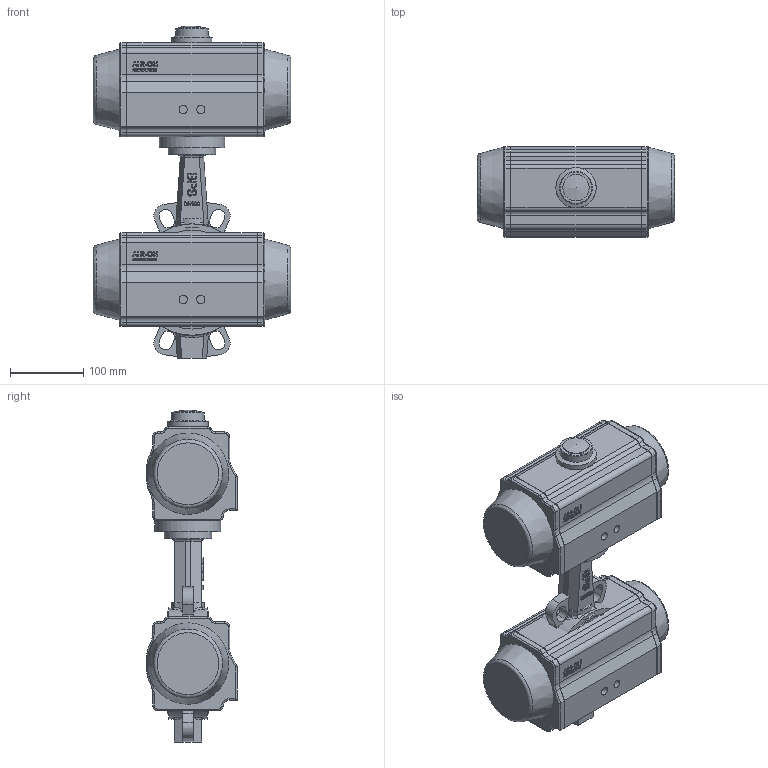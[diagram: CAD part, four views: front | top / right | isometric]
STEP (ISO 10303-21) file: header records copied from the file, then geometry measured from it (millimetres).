
FILE_DESCRIPTION( ( 'Unknown' ), '1' );
FILE_NAME( 'R:/ECCUA/ROOTSI BPS 3D vidinad/Poordklapid Wafer type/Butterfly valve(wafer) with pneumatic actuator BPS/STEP formaat/BPS 2303100PE butterfly valve DN100.stp', 'Unknown', ( 'Unknown' ), ( 'Unknown' ), 'PSStep 10.1', 'Unknown', ' ' );
FILE_SCHEMA( ( 'AUTOMOTIVE_DESIGN { 1 0 10303 214 1 1 1 1 }' ) );
Length unit declared in the file: millimetre
Products named in the file (6): Assem1; Butterfly valve wafer type DN100 BPS; BPS 8300100DA-SR pneumatic actuator; BPS adaptor flange F05-F07
Bounding box: 269 x 123 x 453 mm (x, y, z)
Volume: 8601427.7 mm3; surface area: 670767.8 mm2
Topology: 10 solids, 10 shells, 1044 faces, 2642 edges, 1714 vertices
Faces by surface type: plane 340, extrusion 286, cylinder 268, torus 78, bspline 44, cone 26, sphere 2
Full cylindrical faces by diameter (mm): 4.917 x8, 6.647 x8, 7 x8, 8.376 x8, 9 x8, 11.445 x4, 14 x8, 35 x2, 36 x2, 45 x2, 55 x2, 65 x2, 90 x2, 100 x2, 135 x4, 152 x2
Entity records: 24259 total; most frequent: CARTESIAN_POINT 8078, ORIENTED_EDGE 2452, DIRECTION 2180, EDGE_CURVE 1226, VERTEX_POINT 832, VECTOR 750, AXIS2_PLACEMENT_3D 715, EDGE_LOOP 670
